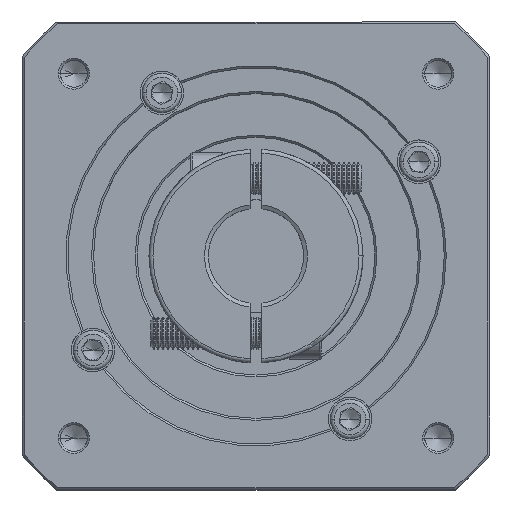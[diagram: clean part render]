
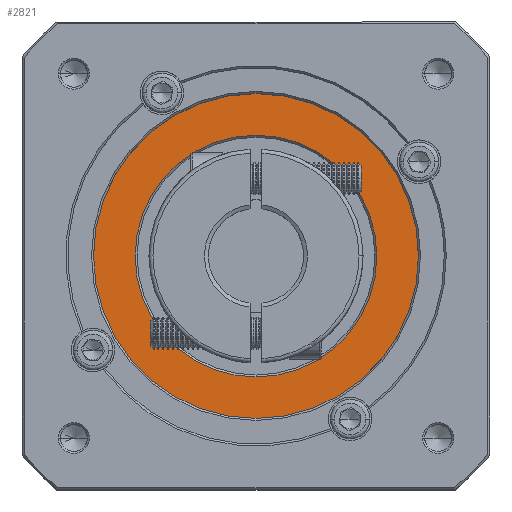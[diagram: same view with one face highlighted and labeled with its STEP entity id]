
A CAD part, top view. The second image highlights one B-rep face of the part: STEP entity #2821.
In plain terms, the highlighted planar face has unit normal (0, 0, 1).
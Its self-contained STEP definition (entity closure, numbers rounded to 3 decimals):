
#18 = CIRCLE ( 'NONE', #8812, 41. ) ;
#237 = ORIENTED_EDGE ( 'NONE', *, *, #59822, .T. ) ;
#342 = EDGE_CURVE ( 'NONE', #37605, #42356, #109686, .T. ) ;
#2016 = DIRECTION ( 'NONE',  ( 0., 0., 1. ) ) ;
#2821 = ADVANCED_FACE ( 'NONE', ( #43294, #21170 ), #11098, .T. ) ;
#4190 = EDGE_CURVE ( 'NONE', #42919, #94927, #18, .T. ) ;
#8661 = DIRECTION ( 'NONE',  ( 0., -1., 0. ) ) ;
#8812 = AXIS2_PLACEMENT_3D ( 'NONE', #15468, #81536, #24960 ) ;
#11044 = AXIS2_PLACEMENT_3D ( 'NONE', #58556, #2016, #68050 ) ;
#11098 = PLANE ( 'NONE',  #11044 ) ;
#15468 = CARTESIAN_POINT ( 'NONE',  ( 69.096, 90.323, 36.003 ) ) ;
#20461 = CARTESIAN_POINT ( 'NONE',  ( 110.096, 90.323, 36.003 ) ) ;
#20979 = AXIS2_PLACEMENT_3D ( 'NONE', #54799, #120758, #64290 ) ;
#21170 = FACE_BOUND ( 'NONE', #74222, .T. ) ;
#22858 = AXIS2_PLACEMENT_3D ( 'NONE', #121700, #65227, #8661 ) ;
#24408 = CARTESIAN_POINT ( 'NONE',  ( 69.096, 120.823, 36.003 ) ) ;
#24960 = DIRECTION ( 'NONE',  ( 1., 0., 0. ) ) ;
#33780 = CARTESIAN_POINT ( 'NONE',  ( 28.096, 90.323, 36.003 ) ) ;
#34656 = AXIS2_PLACEMENT_3D ( 'NONE', #101332, #44721, #110758 ) ;
#37452 = CARTESIAN_POINT ( 'NONE',  ( 69.096, 59.823, 36.003 ) ) ;
#37605 = VERTEX_POINT ( 'NONE', #37452 ) ;
#42356 = VERTEX_POINT ( 'NONE', #24408 ) ;
#42919 = VERTEX_POINT ( 'NONE', #33780 ) ;
#43294 = FACE_OUTER_BOUND ( 'NONE', #107955, .T. ) ;
#44721 = DIRECTION ( 'NONE',  ( 0., 0., 1. ) ) ;
#49767 = CIRCLE ( 'NONE', #34656, 41. ) ;
#54799 = CARTESIAN_POINT ( 'NONE',  ( 69.096, 90.323, 36.003 ) ) ;
#58556 = CARTESIAN_POINT ( 'NONE',  ( 69.096, 90.323, 36.003 ) ) ;
#59822 = EDGE_CURVE ( 'NONE', #94927, #42919, #49767, .T. ) ;
#60636 = CIRCLE ( 'NONE', #22858, 30.5 ) ;
#64290 = DIRECTION ( 'NONE',  ( 0., -1., 0. ) ) ;
#65003 = ORIENTED_EDGE ( 'NONE', *, *, #4190, .T. ) ;
#65227 = DIRECTION ( 'NONE',  ( 0., 0., -1. ) ) ;
#68050 = DIRECTION ( 'NONE',  ( 1., 0., 0. ) ) ;
#71598 = EDGE_CURVE ( 'NONE', #42356, #37605, #60636, .T. ) ;
#74222 = EDGE_LOOP ( 'NONE', ( #92581, #114078 ) ) ;
#81536 = DIRECTION ( 'NONE',  ( 0., 0., 1. ) ) ;
#92581 = ORIENTED_EDGE ( 'NONE', *, *, #342, .T. ) ;
#94927 = VERTEX_POINT ( 'NONE', #20461 ) ;
#101332 = CARTESIAN_POINT ( 'NONE',  ( 69.096, 90.323, 36.003 ) ) ;
#107955 = EDGE_LOOP ( 'NONE', ( #237, #65003 ) ) ;
#109686 = CIRCLE ( 'NONE', #20979, 30.5 ) ;
#110758 = DIRECTION ( 'NONE',  ( 1., 0., 0. ) ) ;
#114078 = ORIENTED_EDGE ( 'NONE', *, *, #71598, .T. ) ;
#120758 = DIRECTION ( 'NONE',  ( 0., 0., -1. ) ) ;
#121700 = CARTESIAN_POINT ( 'NONE',  ( 69.096, 90.323, 36.003 ) ) ;
